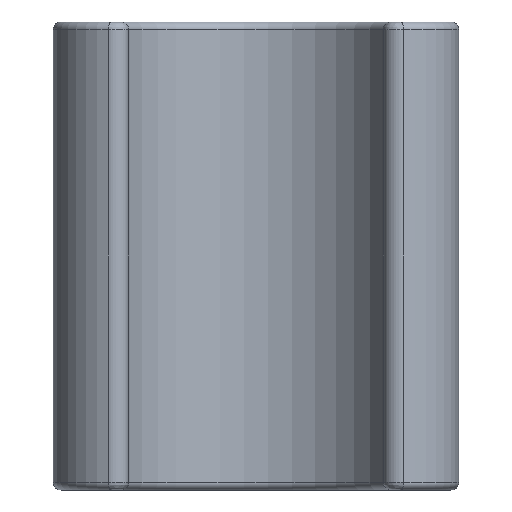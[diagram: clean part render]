
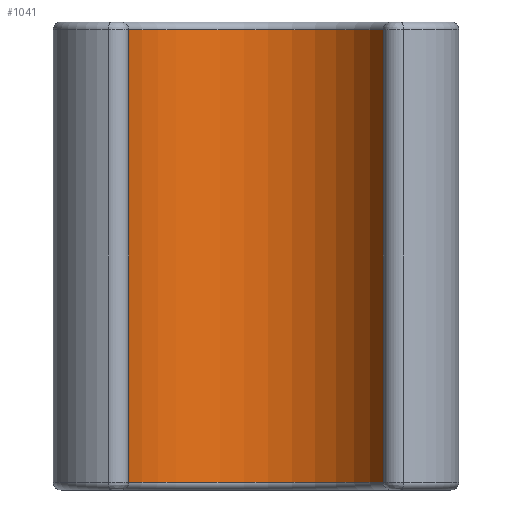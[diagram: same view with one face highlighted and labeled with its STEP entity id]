
A CAD part, front view. The second image highlights one B-rep face of the part: STEP entity #1041.
In plain terms, the highlighted cylindrical face has radius 9 mm (diameter 18 mm), a partial arc.
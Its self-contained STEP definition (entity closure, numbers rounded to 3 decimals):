
#104=CYLINDRICAL_SURFACE('',#1215,9.);
#174=FACE_OUTER_BOUND('',#245,.T.);
#245=EDGE_LOOP('',(#967,#968,#969,#970));
#249=LINE('',#1684,#301);
#258=LINE('',#1796,#310);
#301=VECTOR('',#1271,10.);
#310=VECTOR('',#1330,10.);
#357=CIRCLE('',#1072,9.);
#379=CIRCLE('',#1100,9.);
#435=VERTEX_POINT('',#1593);
#438=VERTEX_POINT('',#1598);
#448=VERTEX_POINT('',#1682);
#464=VERTEX_POINT('',#1720);
#524=EDGE_CURVE('',#438,#435,#357,.T.);
#539=EDGE_CURVE('',#438,#448,#249,.T.);
#558=EDGE_CURVE('',#464,#448,#379,.T.);
#569=EDGE_CURVE('',#435,#464,#258,.T.);
#967=ORIENTED_EDGE('',*,*,#524,.F.);
#968=ORIENTED_EDGE('',*,*,#539,.T.);
#969=ORIENTED_EDGE('',*,*,#558,.F.);
#970=ORIENTED_EDGE('',*,*,#569,.F.);
#1041=ADVANCED_FACE('',(#174),#104,.F.);
#1072=AXIS2_PLACEMENT_3D('',#1600,#1240,#1241);
#1100=AXIS2_PLACEMENT_3D('',#1722,#1306,#1307);
#1215=AXIS2_PLACEMENT_3D('',#2243,#1576,#1577);
#1240=DIRECTION('center_axis',(0.,0.,1.));
#1241=DIRECTION('ref_axis',(0.,1.,0.));
#1271=DIRECTION('',(0.,0.,1.));
#1306=DIRECTION('center_axis',(0.,0.,-1.));
#1307=DIRECTION('ref_axis',(0.,1.,0.));
#1330=DIRECTION('',(0.,0.,1.));
#1576=DIRECTION('center_axis',(0.,0.,1.));
#1577=DIRECTION('ref_axis',(-0.917,0.4,0.));
#1593=CARTESIAN_POINT('',(-77.479,9.515,0.5));
#1598=CARTESIAN_POINT('',(-60.982,9.515,0.5));
#1600=CARTESIAN_POINT('Origin',(-69.231,13.115,0.5));
#1682=CARTESIAN_POINT('',(-60.982,9.515,29.5));
#1684=CARTESIAN_POINT('',(-60.982,9.515,0.));
#1720=CARTESIAN_POINT('',(-77.479,9.515,29.5));
#1722=CARTESIAN_POINT('Origin',(-69.231,13.115,29.5));
#1796=CARTESIAN_POINT('',(-77.479,9.515,0.));
#2243=CARTESIAN_POINT('Origin',(-69.231,13.115,0.));
